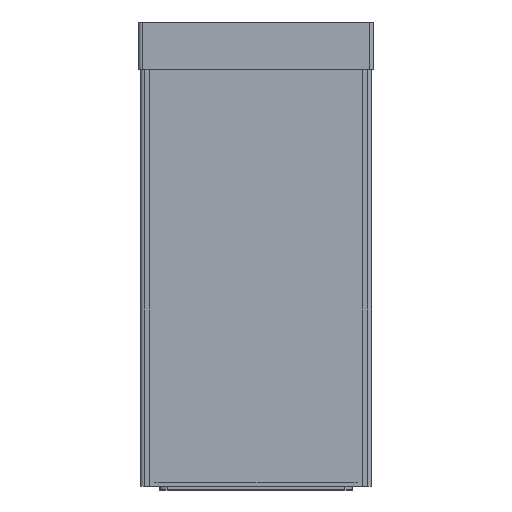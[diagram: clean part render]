
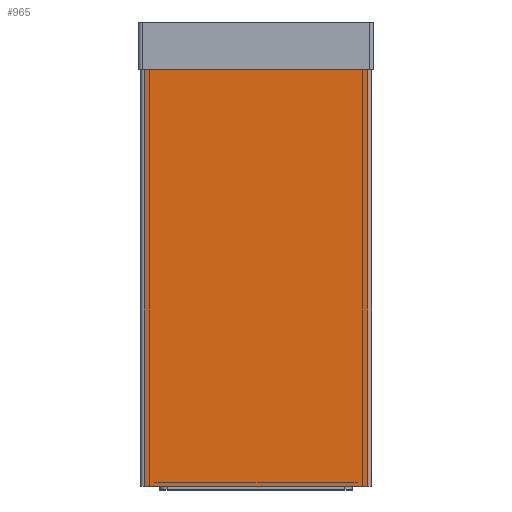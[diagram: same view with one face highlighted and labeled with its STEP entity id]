
A CAD part, left-side view. The second image highlights one B-rep face of the part: STEP entity #965.
In plain terms, the highlighted planar face has unit normal (-1, 0, 0).
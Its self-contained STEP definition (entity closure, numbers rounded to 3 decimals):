
#103 = CARTESIAN_POINT ( 'NONE',  ( -7.5, -14.5, 54. ) ) ;
#104 = CARTESIAN_POINT ( 'NONE',  ( -7.5, 14.5, 54. ) ) ;
#105 = CARTESIAN_POINT ( 'NONE',  ( -7.5, 14.5, 0. ) ) ;
#118 = CARTESIAN_POINT ( 'NONE',  ( -7.5, -14.5, 0. ) ) ;
#965 = ADVANCED_FACE ( 'NONE', ( #4297 ), #5425, .F. ) ;
#1326 = EDGE_CURVE ( 'NONE', #2479, #2498, #4426, .T. ) ;
#1332 = EDGE_CURVE ( 'NONE', #2498, #2476, #4433, .T. ) ;
#1342 = EDGE_CURVE ( 'NONE', #2487, #2476, #4446, .T. ) ;
#1351 = EDGE_CURVE ( 'NONE', #2487, #2479, #4465, .T. ) ;
#2476 = VERTEX_POINT ( 'NONE', #103 ) ;
#2479 = VERTEX_POINT ( 'NONE', #105 ) ;
#2487 = VERTEX_POINT ( 'NONE', #104 ) ;
#2498 = VERTEX_POINT ( 'NONE', #118 ) ;
#2726 = ORIENTED_EDGE ( 'NONE', *, *, #1326, .T. ) ;
#2750 = ORIENTED_EDGE ( 'NONE', *, *, #1332, .T. ) ;
#2753 = ORIENTED_EDGE ( 'NONE', *, *, #1351, .T. ) ;
#2757 = ORIENTED_EDGE ( 'NONE', *, *, #1342, .F. ) ;
#3090 = EDGE_LOOP ( 'NONE', ( #2726, #2750, #2757, #2753 ) ) ;
#3872 = AXIS2_PLACEMENT_3D ( 'NONE', #5430, #5431, #5410 ) ;
#4042 = VECTOR ( 'NONE', #5893, 1000. ) ;
#4051 = VECTOR ( 'NONE', #5909, 1000. ) ;
#4055 = VECTOR ( 'NONE', #5928, 1000. ) ;
#4077 = VECTOR ( 'NONE', #5529, 1000. ) ;
#4297 = FACE_OUTER_BOUND ( 'NONE', #3090, .T. ) ;
#4426 = LINE ( 'NONE', #5896, #4042 ) ;
#4433 = LINE ( 'NONE', #5906, #4051 ) ;
#4446 = LINE ( 'NONE', #5915, #4055 ) ;
#4465 = LINE ( 'NONE', #5549, #4077 ) ;
#5410 = DIRECTION ( 'NONE',  ( 0., 1., 0. ) ) ;
#5425 = PLANE ( 'NONE',  #3872 ) ;
#5430 = CARTESIAN_POINT ( 'NONE',  ( -7.5, 15., 54. ) ) ;
#5431 = DIRECTION ( 'NONE',  ( 1., 0., 0. ) ) ;
#5529 = DIRECTION ( 'NONE',  ( 0., 0., -1. ) ) ;
#5549 = CARTESIAN_POINT ( 'NONE',  ( -7.5, 14.5, 54. ) ) ;
#5893 = DIRECTION ( 'NONE',  ( 0., -1., 0. ) ) ;
#5896 = CARTESIAN_POINT ( 'NONE',  ( -7.5, 15., 0. ) ) ;
#5906 = CARTESIAN_POINT ( 'NONE',  ( -7.5, -14.5, 54. ) ) ;
#5909 = DIRECTION ( 'NONE',  ( 0., 0., 1. ) ) ;
#5915 = CARTESIAN_POINT ( 'NONE',  ( -7.5, 15., 54. ) ) ;
#5928 = DIRECTION ( 'NONE',  ( 0., -1., 0. ) ) ;
